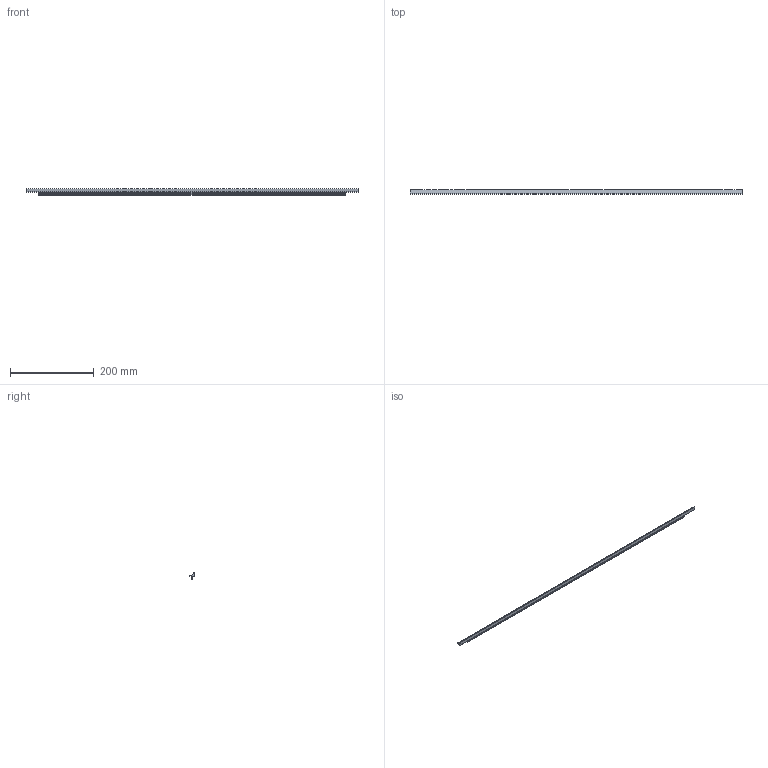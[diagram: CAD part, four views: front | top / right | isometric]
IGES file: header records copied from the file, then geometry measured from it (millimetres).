
Start section: Data from Parasolid IGES Translator 20.0.26, Copyright(c) 2006 Siemens P LM Software. All Rights Reserved.
Global section: file name: 9208102.igs; native system: By Siemens PLM Incorporated; preprocessor: XPlus GENERIC/IGES 20.0.26; author: Noname; organization: Noname; date: 20211115.182732; units: millimetre
Bounding box: 795 x 10.5 x 16.51 mm (x, y, z)
Surface area: 40334.3 mm2 (no closed solid volume)
Topology: 0 solids, 0 shells, 30 faces, 162 edges, 162 vertices
Faces by surface type: extrusion 25, revolution 5
